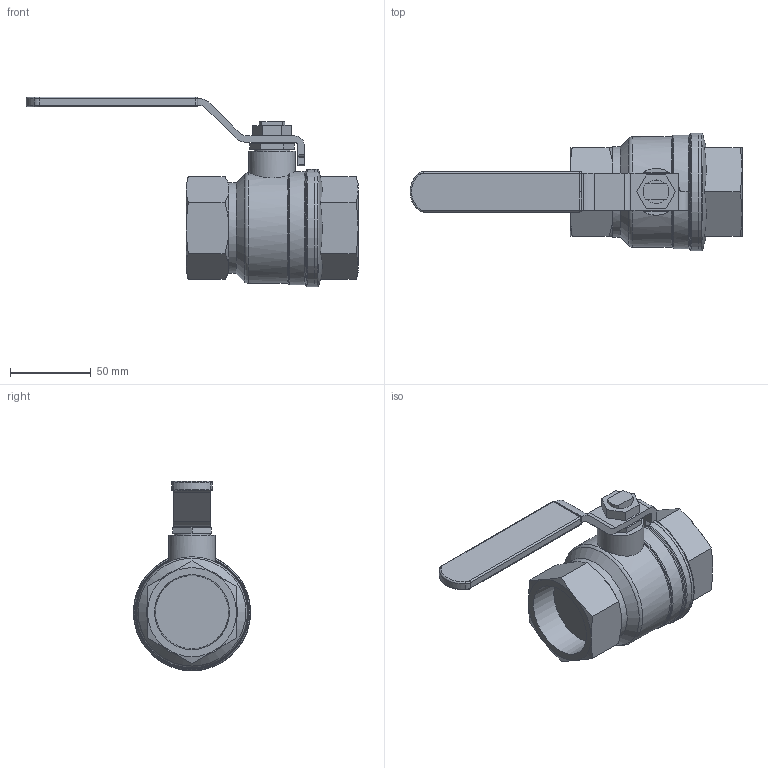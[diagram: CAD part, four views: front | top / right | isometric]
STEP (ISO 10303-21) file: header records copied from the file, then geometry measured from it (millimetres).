
FILE_DESCRIPTION((' '),'2;1');
FILE_NAME('N:\Technical Support\Private\Jomar Valve CAD\Ball Valves\Brass\T-100NE[G]\1.5 T-100NE[G] (100-707[NGDZ])FusionCopy.stp.step','2016-07-28T09:41:43',(' '),(' '),' ','ACIS',' ');
FILE_SCHEMA(('CONFIG_CONTROL_DESIGN'));
Length unit declared in the file: inch
Products named in the file (8): N:\Technical Support\Private\Jomar Valve CAD\Ball Valves\Brass\T-100NE[G]\1.5 T-100NE[G] (100-707[NGDZ])FusionCopy.stp.step; Body1; Body2; Body3; Body4; Body5; Body6; Body7
Assembly tree (7 placements, depth 2):
  N:\Technical Support\Private\Jomar Valve CAD\Ball Valves\Brass\T-100NE[G]\1.5 T-100NE[G] (100-707[NGDZ])FusionCopy.stp.step
    Body1
    Body2
    Body3
    Body4
    Body5
    Body6
    Body7
Bounding box: 205.09 x 72.5 x 117.19 mm (x, y, z)
Volume: 311483 mm3; surface area: 68171.9 mm2
Topology: 7 solids, 7 shells, 159 faces, 393 edges, 248 vertices
Faces by surface type: plane 62, cylinder 39, bspline 24, cone 23, torus 9, sphere 2
Full cylindrical faces by diameter (mm): 16.739 x1, 16.764 x1, 21.946 x1, 28.829 x1, 56 x1, 68.3 x1, 70 x1, 72.5 x2
Entity records: 5981 total; most frequent: CARTESIAN_POINT 1354, DIRECTION 737, ORIENTED_EDGE 730, EDGE_CURVE 365, AXIS2_PLACEMENT_3D 281, VERTEX_POINT 243, EDGE_LOOP 188, VECTOR 175
